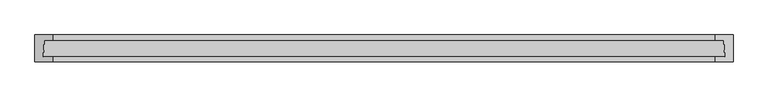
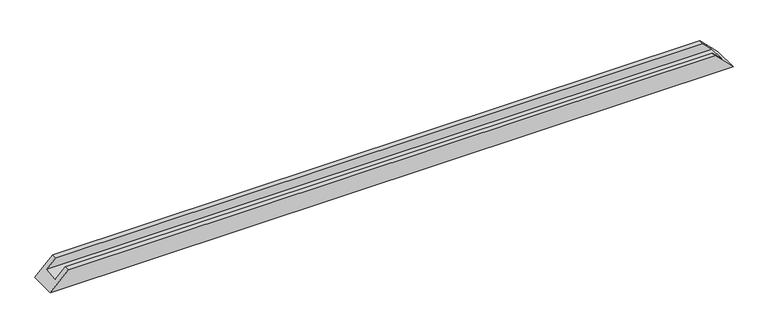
"""IFC4 building model written with IfcOpenShell, lengths in millimetres: proxy geometry, Weiku - Montante - Caixilho duplo 02.2.01.002 : Weiku - Montante - Caixilho duplo 02.2.01.002."""

from ifc_helpers import new_model, si_unit, origin, place, context, project, spatial, faceted_brep, source, transform, mapped, element, save


def generic_models_42e4c991(model_context):
    return source(origin(), model_context, "Body", "Brep", [
        faceted_brep([(-969.0, -15.0, 26.0), (969.0, -15.0, 26.0), (943.0, -15.0, 52.0), (-943.0, -15.0, 52.0), (-971.2229744, -62.0, 23.7770256), (971.2229744, -62.0, 23.7770256), (-943.0, -62.0, 52.0), (943.0, -62.0, 52.0), (-943.0, -77.0, 52.0), (943.0, -77.0, 52.0), (995.0, -77.0, 0.0), (-995.0, -77.0, 0.0), (-995.0, 0.0, 0.0), (995.0, 0.0, 0.0), (-943.0, 0.0, 52.0), (943.0, 0.0, 52.0)], [[[0, 1, 2, 3]], [[4, 5, 1, 0]], [[6, 7, 5, 4]], [[8, 9, 7, 6]], [[10, 9, 8, 11]], [[11, 12, 13, 10]], [[12, 14, 15, 13]], [[3, 2, 15, 14]], [[3, 14, 12, 11, 8, 6, 4, 0]], [[1, 5, 7, 9, 10, 13, 15, 2]]]),
    ])


if __name__ == "__main__":
    model = new_model("IFC4")
    model_context = context("Model", 3, world=origin())
    ifc_project = project(units=[si_unit("LENGTHUNIT", "METRE", prefix="MILLI")], contexts=[model_context])
    site = spatial("IfcSite", under=ifc_project)
    building = spatial("IfcBuilding", under=site)
    placement = place(None, origin())
    generic_models_shape = generic_models_42e4c991(model_context)
    element("IfcBuildingElementProxy", 1, Name="Weiku - Montante - Caixilho duplo 02.2.01.002 : Weiku - Montante - Caixilho duplo 02.2.01.002", ObjectType="Weiku - Montante - Caixilho duplo 02.2.01.002 : Weiku - Montante - Caixilho duplo 02.2.01.002", at=placement, inside=building, context=model_context, shape_type="MappedRepresentation", body=[
        mapped(generic_models_shape, transform((0.0, 0.0, 0.0), x_axis=(1.0, 0.0, 0.0), y_axis=(0.0, 1.0, 0.0), z_axis=(0.0, 0.0, 1.0))),
    ])
    save(model, "model.ifc")
